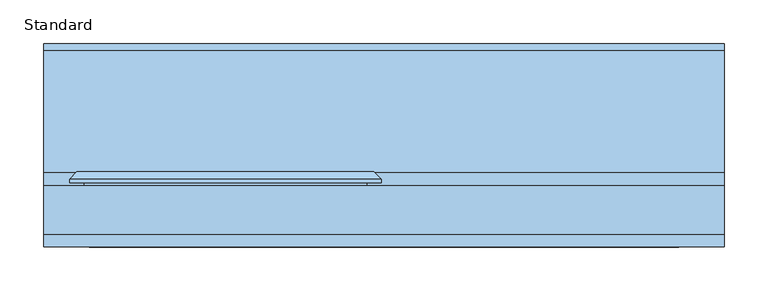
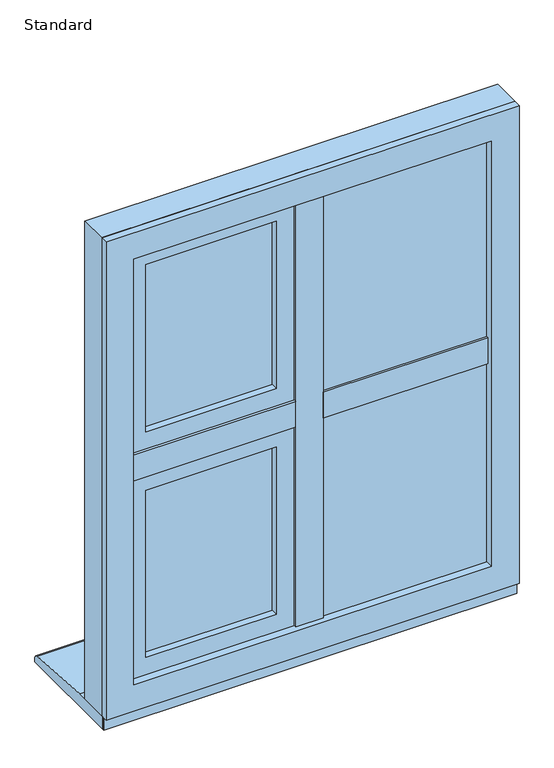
"""IFC4 building model written with IfcOpenShell, lengths in millimetres: window geometry, SMARTS_Alitherm600 : Standard."""

from ifc_helpers import new_model, si_unit, point, frame, frame_2d, origin, place, context, project, spatial, polyline, circle_curve, trimmed, segment, composite_curve, outline, extrude, faceted_brep, source, transform, mapped, element, save


def standard_c503fd03(model_context):
    return source(origin(), model_context, "Body", "SolidModel", [
        extrude(outline(polyline([(-9.4, 102.8298432), (9.4, 102.8298432), (9.4, 47.2458572), (-9.4, 47.2458572), (-9.4, 102.8298432)])), frame((0.0, 0.0, 670.8979117), z_axis=(0.0, 0.0, 1.0), x_axis=(1.0, 0.0, 0.0)), (0.0, 0.0, 1.0), 883.2041766),
        extrude(outline(polyline([(-25.9020883, 47.2458572), (25.9020883, 47.2458572), (25.9020883, 43.2798432), (-25.9020883, 43.2798432), (-25.9020883, 47.2458572)])), frame((0.0, 0.0, 687.4), z_axis=(0.0, 0.0, 1.0), x_axis=(1.0, 0.0, 0.0)), (0.0, 0.0, 1.0), 850.2),
        extrude(outline(polyline([(-9.4979117, 102.8298432), (-9.4979117, 47.2458572), (-354.1020883, 47.2458572), (-354.1020883, 102.8298432), (-9.4979117, 102.8298432)])), frame((0.0, 0.0, 1103.1), z_axis=(0.0, 0.0, 1.0), x_axis=(1.0, 0.0, 0.0)), (0.0, 0.0, 1.0), 18.8),
        extrude(outline(polyline([(-26.0, 47.2458572), (-26.0, 43.2798432), (-337.6, 43.2798432), (-337.6, 47.2458572), (-26.0, 47.2458572)])), frame((0.0, 0.0, 1086.5979117), z_axis=(0.0, 0.0, 1.0), x_axis=(1.0, 0.0, 0.0)), (0.0, 0.0, 1.0), 51.8041766),
        extrude(outline(polyline([(354.1020883, 102.8298432), (354.1020883, 47.2458572), (9.4979117, 47.2458572), (9.4979117, 102.8298432), (354.1020883, 102.8298432)])), frame((0.0, 0.0, 1103.1), z_axis=(0.0, 0.0, 1.0), x_axis=(1.0, 0.0, 0.0)), (0.0, 0.0, 1.0), 18.8),
        extrude(outline(polyline([(337.6, 47.2458572), (337.6, 43.2798432), (26.0, 43.2798432), (26.0, 47.2458572), (337.6, 47.2458572)])), frame((0.0, 0.0, 1086.5979117), z_axis=(0.0, 0.0, 1.0), x_axis=(1.0, 0.0, 0.0)), (0.0, 0.0, 1.0), 51.8041766),
        extrude(outline(polyline([(1065.5, -316.6), (708.4, -316.6), (708.4, -47.0), (1065.5, -47.0), (1065.5, -316.6)]), holes=[polyline([(1055.5, -57.0), (718.4, -57.0), (718.4, -306.6), (1055.5, -306.6), (1055.5, -57.0)])]), frame((0.0, 72.3211351, 0.0), z_axis=(0.0, 1.0, 0.0), x_axis=(0.0, 0.0, 1.0)), (0.0, 0.0, 1.0), 16.0),
        extrude(outline(polyline([(-316.6, 92.3211351), (-47.0, 92.3211351), (-47.0, 88.3211351), (-316.6, 88.3211351), (-316.6, 92.3211351)])), frame((0.0, 0.0, 708.4), z_axis=(0.0, 0.0, 1.0), x_axis=(1.0, 0.0, 0.0)), (0.0, 0.0, 1.0), 357.1),
        extrude(outline(polyline([(-316.6, 72.3211351), (-47.0, 72.3211351), (-47.0, 68.3211351), (-316.6, 68.3211351), (-316.6, 72.3211351)])), frame((0.0, 0.0, 708.4), z_axis=(0.0, 0.0, 1.0), x_axis=(1.0, 0.0, 0.0)), (0.0, 0.0, 1.0), 357.1),
        faceted_brep([(-46.6778853, 118.8818325, 1065.8221147), (-58.859976, 97.7818325, 1053.640024), (-304.740024, 97.7818325, 1053.640024), (-316.9221147, 118.8818325, 1065.8221147), (-41.9939506, 97.7818325, 1070.5060494), (-41.9939506, 118.8818325, 1070.5060494), (-321.6060494, 118.8818325, 1070.5060494), (-321.6060494, 97.7818325, 1070.5060494), (-304.740024, 97.7818325, 720.259976), (-316.9221147, 118.8818325, 708.0778853), (-321.6060494, 118.8818325, 703.3939506), (-321.6060494, 97.7818325, 703.3939506), (-58.859976, 97.7818325, 720.259976), (-46.6778853, 118.8818325, 708.0778853), (-41.9939506, 118.8818325, 703.3939506), (-41.9939506, 97.7818325, 703.3939506)], [[[0, 1, 2, 3]], [[4, 5, 6, 7]], [[3, 2, 8, 9]], [[7, 6, 10, 11]], [[9, 8, 12, 13]], [[11, 10, 14, 15]], [[13, 12, 1, 0]], [[5, 14, 10, 6], [3, 9, 13, 0]], [[15, 14, 5, 4]], [[7, 11, 15, 4], [1, 12, 8, 2]]]),
        extrude(outline(polyline([(681.552908, -343.447092), (681.552908, -20.152908), (1092.347092, -20.152908), (1092.347092, -343.447092), (681.552908, -343.447092)]), holes=[polyline([(1054.0, -305.1), (1054.0, -58.5), (719.9, -58.5), (719.9, -305.1), (1054.0, -305.1)])]), frame((0.0, 50.2798432, 0.0), z_axis=(0.0, 1.0, 0.0), x_axis=(0.0, 0.0, 1.0)), (0.0, 0.0, 1.0), 13.0853156),
        faceted_brep([(-321.6060494, 118.8818325, 1070.5060494), (-321.6060494, 63.3651588, 1070.5060494), (-321.6060494, 63.3651588, 703.3939506), (-321.6060494, 118.8818325, 703.3939506), (-41.9939506, 63.3651588, 703.3939506), (-41.9939506, 118.8818325, 703.3939506), (-41.9939506, 63.3651588, 1070.5060494), (-41.9939506, 118.8818325, 1070.5060494), (-360.3358988, 106.2818325, 1109.2358988), (-360.3358988, 110.3519831, 1109.2358988), (-360.3358988, 110.3519831, 664.6641012), (-360.3358988, 106.2818325, 664.6641012), (-3.2641012, 110.3519831, 664.6641012), (-3.2641012, 106.2818325, 664.6641012), (-3.2641012, 110.3519831, 1109.2358988), (-3.2641012, 106.2818325, 1109.2358988), (-343.7467657, 106.2818325, 1092.6467657), (-19.8532343, 106.2818325, 1092.6467657), (-19.8532343, 106.2818325, 681.2532343), (-343.7467657, 106.2818325, 681.2532343), (-351.8060494, 118.8818325, 1100.7060494), (-11.7939506, 118.8818325, 1100.7060494), (-11.7939506, 118.8818325, 673.1939506), (-351.8060494, 118.8818325, 673.1939506), (-343.7467657, 63.3651588, 1092.6467657), (-343.7467657, 63.3651588, 681.2532343), (-19.8532343, 63.3651588, 681.2532343), (-19.8532343, 63.3651588, 1092.6467657)], [[[0, 1, 2, 3]], [[3, 2, 4, 5]], [[5, 4, 6, 7]], [[7, 6, 1, 0]], [[8, 9, 10, 11]], [[11, 10, 12, 13]], [[13, 12, 14, 15]], [[11, 13, 15, 8], [16, 17, 18, 19]], [[15, 14, 9, 8]], [[20, 21, 22, 23], [3, 5, 7, 0]], [[24, 16, 19, 25]], [[25, 19, 18, 26]], [[26, 18, 17, 27]], [[25, 26, 27, 24], [1, 6, 4, 2]], [[27, 17, 16, 24]], [[9, 20, 23, 10]], [[10, 23, 22, 12]], [[12, 22, 21, 14]], [[14, 21, 20, 9]]]),
        extrude(outline(polyline([(1516.6, -316.6), (1159.5, -316.6), (1159.5, -47.0), (1516.6, -47.0), (1516.6, -316.6)]), holes=[polyline([(1506.6, -57.0), (1169.5, -57.0), (1169.5, -306.6), (1506.6, -306.6), (1506.6, -57.0)])]), frame((0.0, 72.3211351, 0.0), z_axis=(0.0, 1.0, 0.0), x_axis=(0.0, 0.0, 1.0)), (0.0, 0.0, 1.0), 16.0),
        extrude(outline(polyline([(-316.6, 92.3211351), (-47.0, 92.3211351), (-47.0, 88.3211351), (-316.6, 88.3211351), (-316.6, 92.3211351)])), frame((0.0, 0.0, 1159.5), z_axis=(0.0, 0.0, 1.0), x_axis=(1.0, 0.0, 0.0)), (0.0, 0.0, 1.0), 357.1),
        extrude(outline(polyline([(-316.6, 72.3211351), (-47.0, 72.3211351), (-47.0, 68.3211351), (-316.6, 68.3211351), (-316.6, 72.3211351)])), frame((0.0, 0.0, 1159.5), z_axis=(0.0, 0.0, 1.0), x_axis=(1.0, 0.0, 0.0)), (0.0, 0.0, 1.0), 357.1),
        faceted_brep([(-46.6778853, 118.8818325, 1516.9221147), (-58.859976, 97.7818325, 1504.740024), (-304.740024, 97.7818325, 1504.740024), (-316.9221147, 118.8818325, 1516.9221147), (-41.9939506, 97.7818325, 1521.6060494), (-41.9939506, 118.8818325, 1521.6060494), (-321.6060494, 118.8818325, 1521.6060494), (-321.6060494, 97.7818325, 1521.6060494), (-304.740024, 97.7818325, 1171.359976), (-316.9221147, 118.8818325, 1159.1778853), (-321.6060494, 118.8818325, 1154.4939506), (-321.6060494, 97.7818325, 1154.4939506), (-58.859976, 97.7818325, 1171.359976), (-46.6778853, 118.8818325, 1159.1778853), (-41.9939506, 118.8818325, 1154.4939506), (-41.9939506, 97.7818325, 1154.4939506)], [[[0, 1, 2, 3]], [[4, 5, 6, 7]], [[3, 2, 8, 9]], [[7, 6, 10, 11]], [[9, 8, 12, 13]], [[11, 10, 14, 15]], [[13, 12, 1, 0]], [[5, 14, 10, 6], [3, 9, 13, 0]], [[15, 14, 5, 4]], [[7, 11, 15, 4], [1, 12, 8, 2]]]),
        extrude(outline(polyline([(1132.652908, -343.447092), (1132.652908, -20.152908), (1543.447092, -20.152908), (1543.447092, -343.447092), (1132.652908, -343.447092)]), holes=[polyline([(1505.1, -305.1), (1505.1, -58.5), (1171.0, -58.5), (1171.0, -305.1), (1505.1, -305.1)])]), frame((0.0, 50.2798432, 0.0), z_axis=(0.0, 1.0, 0.0), x_axis=(0.0, 0.0, 1.0)), (0.0, 0.0, 1.0), 13.0853156),
        faceted_brep([(-321.6060494, 118.8818325, 1521.6060494), (-321.6060494, 63.3651588, 1521.6060494), (-321.6060494, 63.3651588, 1154.4939506), (-321.6060494, 118.8818325, 1154.4939506), (-41.9939506, 63.3651588, 1154.4939506), (-41.9939506, 118.8818325, 1154.4939506), (-41.9939506, 63.3651588, 1521.6060494), (-41.9939506, 118.8818325, 1521.6060494), (-360.3358988, 106.2818325, 1560.3358988), (-360.3358988, 110.3519831, 1560.3358988), (-360.3358988, 110.3519831, 1115.7641012), (-360.3358988, 106.2818325, 1115.7641012), (-3.2641012, 110.3519831, 1115.7641012), (-3.2641012, 106.2818325, 1115.7641012), (-3.2641012, 110.3519831, 1560.3358988), (-3.2641012, 106.2818325, 1560.3358988), (-343.7467657, 106.2818325, 1543.7467657), (-19.8532343, 106.2818325, 1543.7467657), (-19.8532343, 106.2818325, 1132.3532343), (-343.7467657, 106.2818325, 1132.3532343), (-351.8060494, 118.8818325, 1551.8060494), (-11.7939506, 118.8818325, 1551.8060494), (-11.7939506, 118.8818325, 1124.2939506), (-351.8060494, 118.8818325, 1124.2939506), (-343.7467657, 63.3651588, 1543.7467657), (-343.7467657, 63.3651588, 1132.3532343), (-19.8532343, 63.3651588, 1132.3532343), (-19.8532343, 63.3651588, 1543.7467657)], [[[0, 1, 2, 3]], [[3, 2, 4, 5]], [[5, 4, 6, 7]], [[7, 6, 1, 0]], [[8, 9, 10, 11]], [[11, 10, 12, 13]], [[13, 12, 14, 15]], [[11, 13, 15, 8], [16, 17, 18, 19]], [[15, 14, 9, 8]], [[20, 21, 22, 23], [3, 5, 7, 0]], [[24, 16, 19, 25]], [[25, 19, 18, 26]], [[26, 18, 17, 27]], [[25, 26, 27, 24], [1, 6, 4, 2]], [[27, 17, 16, 24]], [[9, 20, 23, 10]], [[10, 23, 22, 12]], [[12, 22, 21, 14]], [[14, 21, 20, 9]]]),
        extrude(outline(polyline([(11.0, 77.7798432), (352.6, 77.7798432), (352.6, 73.7798432), (11.0, 73.7798432), (11.0, 77.7798432)])), frame((0.0, 0.0, 672.4), z_axis=(0.0, 0.0, 1.0), x_axis=(1.0, 0.0, 0.0)), (0.0, 0.0, 1.0), 429.1),
        extrude(outline(polyline([(11.0, 57.7798432), (352.6, 57.7798432), (352.6, 53.7798432), (11.0, 53.7798432), (11.0, 57.7798432)])), frame((0.0, 0.0, 672.4), z_axis=(0.0, 0.0, 1.0), x_axis=(1.0, 0.0, 0.0)), (0.0, 0.0, 1.0), 429.1),
        extrude(outline(polyline([(1101.5, 11.0), (672.4, 11.0), (672.4, 352.6), (1101.5, 352.6), (1101.5, 11.0)]), holes=[polyline([(1091.5, 342.6), (682.4, 342.6), (682.4, 21.0), (1091.5, 21.0), (1091.5, 342.6)])]), frame((0.0, 57.7798432, 0.0), z_axis=(0.0, 1.0, 0.0), x_axis=(0.0, 0.0, 1.0)), (0.0, 0.0, 1.0), 16.0),
        faceted_brep([(14.1839347, 102.7798432, 1098.3160653), (26.3660254, 81.6798432, 1086.1339746), (26.3660254, 81.6798432, 687.7660254), (14.1839347, 102.7798432, 675.5839347), (337.2339746, 81.6798432, 687.7660254), (349.4160653, 102.7798432, 675.5839347), (337.2339746, 81.6798432, 1086.1339746), (349.4160653, 102.7798432, 1098.3160653), (354.1, 81.6798432, 1103.0), (354.1, 102.7798432, 1103.0), (9.5, 102.7798432, 1103.0), (9.5, 81.6798432, 1103.0), (9.5, 102.7798432, 670.9), (9.5, 81.6798432, 670.9), (354.1, 102.7798432, 670.9), (354.1, 81.6798432, 670.9)], [[[0, 1, 2, 3]], [[3, 2, 4, 5]], [[5, 4, 6, 7]], [[7, 6, 1, 0]], [[8, 9, 10, 11]], [[11, 10, 12, 13]], [[13, 12, 14, 15]], [[9, 14, 12, 10], [0, 3, 5, 7]], [[15, 14, 9, 8]], [[11, 13, 15, 8], [6, 4, 2, 1]]]),
        extrude(outline(polyline([(1590.0, 390.0), (1590.0, -390.0), (635.0, -390.0), (635.0, 390.0), (1590.0, 390.0)]), holes=[polyline([(670.85, 354.15), (670.85, -354.15), (1554.15, -354.15), (1554.15, 354.15), (670.85, 354.15)])]), frame((0.0, 47.2798427, 0.0), z_axis=(0.0, 1.0, 0.0), x_axis=(0.0, 0.0, 1.0)), (0.0, 0.0, 1.0), 55.5500006),
        extrude(outline(polyline([(1590.0, 390.0), (1590.0, -390.0), (635.0, -390.0), (635.0, 390.0), (1590.0, 390.0)]), holes=[polyline([(687.35, 337.65), (687.35, -337.65), (1537.65, -337.65), (1537.65, 337.65), (687.35, 337.65)])]), frame((0.0, 32.8298432, 0.0), z_axis=(0.0, 1.0, 0.0), x_axis=(0.0, 0.0, 1.0)), (0.0, 0.0, 1.0), 14.4499994),
        extrude(outline(polyline([(11.0, 77.7798432), (352.6, 77.7798432), (352.6, 73.7798432), (11.0, 73.7798432), (11.0, 77.7798432)])), frame((0.0, 0.0, 1123.5), z_axis=(0.0, 0.0, 1.0), x_axis=(1.0, 0.0, 0.0)), (0.0, 0.0, 1.0), 429.1),
        extrude(outline(polyline([(11.0, 57.7798432), (352.6, 57.7798432), (352.6, 53.7798432), (11.0, 53.7798432), (11.0, 57.7798432)])), frame((0.0, 0.0, 1123.5), z_axis=(0.0, 0.0, 1.0), x_axis=(1.0, 0.0, 0.0)), (0.0, 0.0, 1.0), 429.1),
        extrude(outline(polyline([(1552.6, 11.0), (1123.5, 11.0), (1123.5, 352.6), (1552.6, 352.6), (1552.6, 11.0)]), holes=[polyline([(1542.6, 342.6), (1133.5, 342.6), (1133.5, 21.0), (1542.6, 21.0), (1542.6, 342.6)])]), frame((0.0, 57.7798432, 0.0), z_axis=(0.0, 1.0, 0.0), x_axis=(0.0, 0.0, 1.0)), (0.0, 0.0, 1.0), 16.0),
        faceted_brep([(14.1839347, 102.7798432, 1549.4160653), (26.3660254, 81.6798432, 1537.2339746), (26.3660254, 81.6798432, 1138.8660254), (14.1839347, 102.7798432, 1126.6839347), (337.2339746, 81.6798432, 1138.8660254), (349.4160653, 102.7798432, 1126.6839347), (337.2339746, 81.6798432, 1537.2339746), (349.4160653, 102.7798432, 1549.4160653), (354.1, 81.6798432, 1554.1), (354.1, 102.7798432, 1554.1), (9.5, 102.7798432, 1554.1), (9.5, 81.6798432, 1554.1), (9.5, 102.7798432, 1122.0), (9.5, 81.6798432, 1122.0), (354.1, 102.7798432, 1122.0), (354.1, 81.6798432, 1122.0)], [[[0, 1, 2, 3]], [[3, 2, 4, 5]], [[5, 4, 6, 7]], [[7, 6, 1, 0]], [[8, 9, 10, 11]], [[11, 10, 12, 13]], [[13, 12, 14, 15]], [[9, 14, 12, 10], [0, 3, 5, 7]], [[15, 14, 9, 8]], [[11, 13, 15, 8], [6, 4, 2, 1]]]),
        extrude(outline(polyline([(390.0, 43.2798432), (390.0, 40.7798432), (-390.0, 40.7798432), (-390.0, 43.2798432), (390.0, 43.2798432)])), frame((0.0, 0.0, 610.0), z_axis=(0.0, 0.0, 1.0), x_axis=(1.0, 0.0, 0.0)), (0.0, 0.0, 1.0), 31.0),
        extrude(outline(composite_curve([segment(polyline([(265.7798432, 610.0), (43.2798432, 610.0), (43.2798432, 635.0), (118.7798432, 635.0), (258.4770891, 625.9276664)]), True, "CONTINUOUS"), segment(trimmed(circle_curve(frame_2d((257.7798432, 617.9581088)), 8.0), [point((258.4770891, 625.9276664))], [point((265.7798432, 617.9581088))], False, "CARTESIAN"), True, "CONTINUOUS"), segment(polyline([(265.7798432, 617.9581088), (265.7798432, 610.0)]), True, "CONTINUOUS")], self_intersect=False)), frame((-390.0, 0.0, 0.0), z_axis=(1.0, 0.0, 0.0), x_axis=(0.0, 1.0, 0.0)), (0.0, 0.0, 1.0), 780.0),
    ])


if __name__ == "__main__":
    model = new_model("IFC4")
    model_context = context("Model", 3, world=origin())
    ifc_project = project(units=[si_unit("LENGTHUNIT", "METRE", prefix="MILLI")], contexts=[model_context])
    site = spatial("IfcSite", under=ifc_project)
    building = spatial("IfcBuilding", under=site)
    placement = place(None, origin())
    standard_shape = standard_c503fd03(model_context)
    element("IfcWindow", 1, ObjectType="SMARTS_Alitherm600 : Standard", at=placement, inside=building, context=model_context, shape_type="MappedRepresentation", body=[
        mapped(standard_shape, transform((0.0, 0.0, 0.0), x_axis=(1.0, 0.0, 0.0), y_axis=(0.0, 1.0, 0.0), z_axis=(0.0, 0.0, 1.0))),
    ])
    save(model, "model.ifc")
